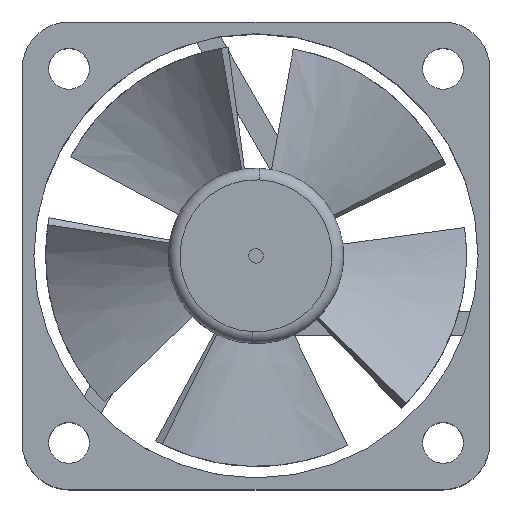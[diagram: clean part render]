
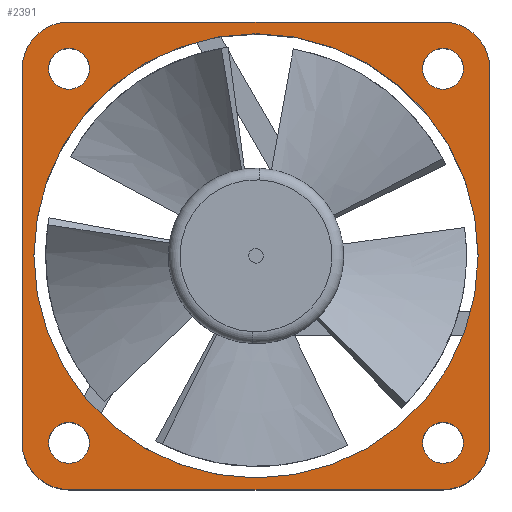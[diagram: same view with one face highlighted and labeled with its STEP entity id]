
A CAD part, top view. The second image highlights one B-rep face of the part: STEP entity #2391.
In plain terms, the highlighted planar face has unit normal (0, 0, 1).
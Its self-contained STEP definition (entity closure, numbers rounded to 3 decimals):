
#622 = VERTEX_POINT('',#623);
#623 = CARTESIAN_POINT('',(-17.75,16.,20.));
#641 = VERTEX_POINT('',#642);
#642 = CARTESIAN_POINT('',(-14.25,16.,20.));
#648 = EDGE_CURVE('',#622,#641,#649,.T.);
#649 = CIRCLE('',#650,1.75);
#650 = AXIS2_PLACEMENT_3D('',#651,#652,#653);
#651 = CARTESIAN_POINT('',(-16.,16.,20.));
#652 = DIRECTION('',(0.,0.,1.));
#653 = DIRECTION('',(0.,1.,-0.));
#706 = VERTEX_POINT('',#707);
#707 = CARTESIAN_POINT('',(-17.75,-16.,20.));
#725 = VERTEX_POINT('',#726);
#726 = CARTESIAN_POINT('',(-14.25,-16.,20.));
#732 = EDGE_CURVE('',#706,#725,#733,.T.);
#733 = CIRCLE('',#734,1.75);
#734 = AXIS2_PLACEMENT_3D('',#735,#736,#737);
#735 = CARTESIAN_POINT('',(-16.,-16.,20.));
#736 = DIRECTION('',(0.,0.,1.));
#737 = DIRECTION('',(-1.,0.,0.));
#790 = VERTEX_POINT('',#791);
#791 = CARTESIAN_POINT('',(14.25,-16.,20.));
#809 = VERTEX_POINT('',#810);
#810 = CARTESIAN_POINT('',(17.75,-16.,20.));
#816 = EDGE_CURVE('',#790,#809,#817,.T.);
#817 = CIRCLE('',#818,1.75);
#818 = AXIS2_PLACEMENT_3D('',#819,#820,#821);
#819 = CARTESIAN_POINT('',(16.,-16.,20.));
#820 = DIRECTION('',(0.,0.,1.));
#821 = DIRECTION('',(0.,-1.,0.));
#874 = VERTEX_POINT('',#875);
#875 = CARTESIAN_POINT('',(14.25,16.,20.));
#893 = VERTEX_POINT('',#894);
#894 = CARTESIAN_POINT('',(17.75,16.,20.));
#900 = EDGE_CURVE('',#874,#893,#901,.T.);
#901 = CIRCLE('',#902,1.75);
#902 = AXIS2_PLACEMENT_3D('',#903,#904,#905);
#903 = CARTESIAN_POINT('',(16.,16.,20.));
#904 = DIRECTION('',(0.,0.,1.));
#905 = DIRECTION('',(1.,0.,-0.));
#948 = VERTEX_POINT('',#949);
#949 = CARTESIAN_POINT('',(-19.,0.,20.));
#1035 = VERTEX_POINT('',#1036);
#1036 = CARTESIAN_POINT('',(19.,0.,20.));
#1042 = EDGE_CURVE('',#948,#1035,#1043,.T.);
#1043 = CIRCLE('',#1044,19.);
#1044 = AXIS2_PLACEMENT_3D('',#1045,#1046,#1047);
#1045 = CARTESIAN_POINT('',(0.,0.,20.));
#1046 = DIRECTION('',(0.,0.,1.));
#1047 = DIRECTION('',(1.,0.,-0.));
#1967 = EDGE_CURVE('',#1035,#948,#1968,.T.);
#1968 = CIRCLE('',#1969,19.);
#1969 = AXIS2_PLACEMENT_3D('',#1970,#1971,#1972);
#1970 = CARTESIAN_POINT('',(0.,0.,20.));
#1971 = DIRECTION('',(0.,0.,1.));
#1972 = DIRECTION('',(1.,0.,-0.));
#2391 = ADVANCED_FACE('',(#2392,#2402,#2412,#2416,#2486,#2496),#2506,.T.
  );
#2392 = FACE_BOUND('',#2393,.T.);
#2393 = EDGE_LOOP('',(#2394,#2395));
#2394 = ORIENTED_EDGE('',*,*,#732,.F.);
#2395 = ORIENTED_EDGE('',*,*,#2396,.F.);
#2396 = EDGE_CURVE('',#725,#706,#2397,.T.);
#2397 = CIRCLE('',#2398,1.75);
#2398 = AXIS2_PLACEMENT_3D('',#2399,#2400,#2401);
#2399 = CARTESIAN_POINT('',(-16.,-16.,20.));
#2400 = DIRECTION('',(0.,0.,1.));
#2401 = DIRECTION('',(-1.,0.,0.));
#2402 = FACE_BOUND('',#2403,.T.);
#2403 = EDGE_LOOP('',(#2404,#2405));
#2404 = ORIENTED_EDGE('',*,*,#900,.F.);
#2405 = ORIENTED_EDGE('',*,*,#2406,.F.);
#2406 = EDGE_CURVE('',#893,#874,#2407,.T.);
#2407 = CIRCLE('',#2408,1.75);
#2408 = AXIS2_PLACEMENT_3D('',#2409,#2410,#2411);
#2409 = CARTESIAN_POINT('',(16.,16.,20.));
#2410 = DIRECTION('',(0.,0.,1.));
#2411 = DIRECTION('',(1.,0.,-0.));
#2412 = FACE_BOUND('',#2413,.T.);
#2413 = EDGE_LOOP('',(#2414,#2415));
#2414 = ORIENTED_EDGE('',*,*,#1042,.F.);
#2415 = ORIENTED_EDGE('',*,*,#1967,.F.);
#2416 = FACE_BOUND('',#2417,.T.);
#2417 = EDGE_LOOP('',(#2418,#2428,#2437,#2445,#2454,#2462,#2471,#2479));
#2418 = ORIENTED_EDGE('',*,*,#2419,.T.);
#2419 = EDGE_CURVE('',#2420,#2422,#2424,.T.);
#2420 = VERTEX_POINT('',#2421);
#2421 = CARTESIAN_POINT('',(-16.,-20.,20.));
#2422 = VERTEX_POINT('',#2423);
#2423 = CARTESIAN_POINT('',(16.,-20.,20.));
#2424 = LINE('',#2425,#2426);
#2425 = CARTESIAN_POINT('',(-16.,-20.,20.));
#2426 = VECTOR('',#2427,1.);
#2427 = DIRECTION('',(1.,0.,0.));
#2428 = ORIENTED_EDGE('',*,*,#2429,.T.);
#2429 = EDGE_CURVE('',#2422,#2430,#2432,.T.);
#2430 = VERTEX_POINT('',#2431);
#2431 = CARTESIAN_POINT('',(20.,-16.,20.));
#2432 = CIRCLE('',#2433,4.);
#2433 = AXIS2_PLACEMENT_3D('',#2434,#2435,#2436);
#2434 = CARTESIAN_POINT('',(16.,-16.,20.));
#2435 = DIRECTION('',(0.,0.,1.));
#2436 = DIRECTION('',(1.,0.,-0.));
#2437 = ORIENTED_EDGE('',*,*,#2438,.T.);
#2438 = EDGE_CURVE('',#2430,#2439,#2441,.T.);
#2439 = VERTEX_POINT('',#2440);
#2440 = CARTESIAN_POINT('',(20.,16.,20.));
#2441 = LINE('',#2442,#2443);
#2442 = CARTESIAN_POINT('',(20.,-16.,20.));
#2443 = VECTOR('',#2444,1.);
#2444 = DIRECTION('',(0.,1.,0.));
#2445 = ORIENTED_EDGE('',*,*,#2446,.T.);
#2446 = EDGE_CURVE('',#2439,#2447,#2449,.T.);
#2447 = VERTEX_POINT('',#2448);
#2448 = CARTESIAN_POINT('',(16.,20.,20.));
#2449 = CIRCLE('',#2450,4.);
#2450 = AXIS2_PLACEMENT_3D('',#2451,#2452,#2453);
#2451 = CARTESIAN_POINT('',(16.,16.,20.));
#2452 = DIRECTION('',(0.,0.,1.));
#2453 = DIRECTION('',(1.,0.,-0.));
#2454 = ORIENTED_EDGE('',*,*,#2455,.T.);
#2455 = EDGE_CURVE('',#2447,#2456,#2458,.T.);
#2456 = VERTEX_POINT('',#2457);
#2457 = CARTESIAN_POINT('',(-16.,20.,20.));
#2458 = LINE('',#2459,#2460);
#2459 = CARTESIAN_POINT('',(16.,20.,20.));
#2460 = VECTOR('',#2461,1.);
#2461 = DIRECTION('',(-1.,0.,0.));
#2462 = ORIENTED_EDGE('',*,*,#2463,.T.);
#2463 = EDGE_CURVE('',#2456,#2464,#2466,.T.);
#2464 = VERTEX_POINT('',#2465);
#2465 = CARTESIAN_POINT('',(-20.,16.,20.));
#2466 = CIRCLE('',#2467,4.);
#2467 = AXIS2_PLACEMENT_3D('',#2468,#2469,#2470);
#2468 = CARTESIAN_POINT('',(-16.,16.,20.));
#2469 = DIRECTION('',(0.,0.,1.));
#2470 = DIRECTION('',(1.,0.,-0.));
#2471 = ORIENTED_EDGE('',*,*,#2472,.T.);
#2472 = EDGE_CURVE('',#2464,#2473,#2475,.T.);
#2473 = VERTEX_POINT('',#2474);
#2474 = CARTESIAN_POINT('',(-20.,-16.,20.));
#2475 = LINE('',#2476,#2477);
#2476 = CARTESIAN_POINT('',(-20.,16.,20.));
#2477 = VECTOR('',#2478,1.);
#2478 = DIRECTION('',(0.,-1.,0.));
#2479 = ORIENTED_EDGE('',*,*,#2480,.T.);
#2480 = EDGE_CURVE('',#2473,#2420,#2481,.T.);
#2481 = CIRCLE('',#2482,4.);
#2482 = AXIS2_PLACEMENT_3D('',#2483,#2484,#2485);
#2483 = CARTESIAN_POINT('',(-16.,-16.,20.));
#2484 = DIRECTION('',(0.,0.,1.));
#2485 = DIRECTION('',(1.,0.,-0.));
#2486 = FACE_BOUND('',#2487,.T.);
#2487 = EDGE_LOOP('',(#2488,#2489));
#2488 = ORIENTED_EDGE('',*,*,#816,.F.);
#2489 = ORIENTED_EDGE('',*,*,#2490,.F.);
#2490 = EDGE_CURVE('',#809,#790,#2491,.T.);
#2491 = CIRCLE('',#2492,1.75);
#2492 = AXIS2_PLACEMENT_3D('',#2493,#2494,#2495);
#2493 = CARTESIAN_POINT('',(16.,-16.,20.));
#2494 = DIRECTION('',(0.,0.,1.));
#2495 = DIRECTION('',(0.,-1.,0.));
#2496 = FACE_BOUND('',#2497,.T.);
#2497 = EDGE_LOOP('',(#2498,#2499));
#2498 = ORIENTED_EDGE('',*,*,#648,.F.);
#2499 = ORIENTED_EDGE('',*,*,#2500,.F.);
#2500 = EDGE_CURVE('',#641,#622,#2501,.T.);
#2501 = CIRCLE('',#2502,1.75);
#2502 = AXIS2_PLACEMENT_3D('',#2503,#2504,#2505);
#2503 = CARTESIAN_POINT('',(-16.,16.,20.));
#2504 = DIRECTION('',(0.,0.,1.));
#2505 = DIRECTION('',(0.,1.,-0.));
#2506 = PLANE('',#2507);
#2507 = AXIS2_PLACEMENT_3D('',#2508,#2509,#2510);
#2508 = CARTESIAN_POINT('',(0.,0.,20.));
#2509 = DIRECTION('',(0.,0.,1.));
#2510 = DIRECTION('',(1.,0.,-0.));
